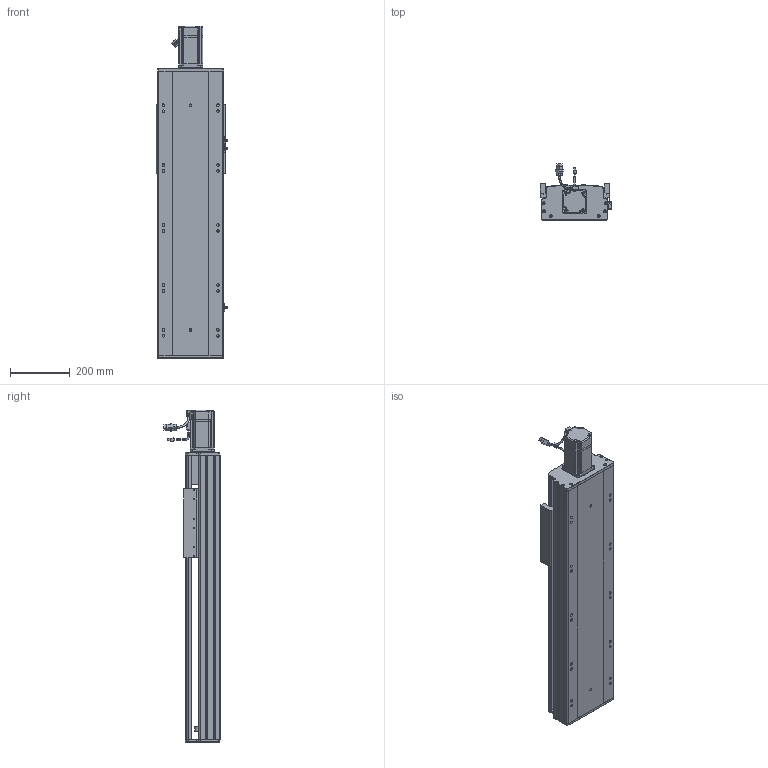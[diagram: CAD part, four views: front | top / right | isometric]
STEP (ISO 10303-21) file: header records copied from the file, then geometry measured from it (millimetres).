
FILE_DESCRIPTION (( 'STEP AP203' ), '1' );
FILE_NAME ('RY220-L2525-300-MK.SLDASM_550.step', '2022-07-04T02:57:28', ( '' ), ( '' ), 'SwSTEP 2.0', 'SolidWorks 2016', '' );
FILE_SCHEMA (( 'CONFIG_CONTROL_DESIGN' ));
Length unit declared in the file: millimetre
Products named in the file (12): RY220綴裔啣; 滅袉蝶18-15; RY220半封闭25-32螺母铝滑块; RY220-300-奻裔啣-MK_550; 怢湛750W_ECMA-CX0807ES; 覜茼ん672; RY220ヶ裔啣; RY220电机支撑座FK20（PCD90M6）; RY220菁釱MK-300_550; 滅袉蝶18-12; RY220-L2525-300-MK.SLDASM_550; RY220-俋离672覜茼んえ
Assembly tree (15 placements, depth 2):
  RY220-L2525-300-MK.SLDASM_550
    RY220菁釱MK-300_550
    RY220电机支撑座FK20（PCD90M6）
    怢湛750W_ECMA-CX0807ES
    滅袉蝶18-12  x2
    RY220ヶ裔啣
    RY220綴裔啣
    覜茼ん672  x3
    RY220半封闭25-32螺母铝滑块
    RY220-300-奻裔啣-MK_550
    RY220-俋离672覜茼んえ
    滅袉蝶18-15  x2
Bounding box: 238.7 x 187.27 x 1108.3 mm (x, y, z)
Volume: 9460461.6 mm3; surface area: 2482744 mm2
Topology: 16 solids, 16 shells, 2122 faces, 5878 edges, 3728 vertices
Faces by surface type: cylinder 936, plane 907, cone 217, bspline 36, sphere 16, torus 10
Entity records: 69698 total; most frequent: CARTESIAN_POINT 19917, ORIENTED_EDGE 10360, DIRECTION 9715, EDGE_CURVE 5180, AXIS2_PLACEMENT_3D 3391, VERTEX_POINT 3384, VECTOR 2933, LINE 2933
